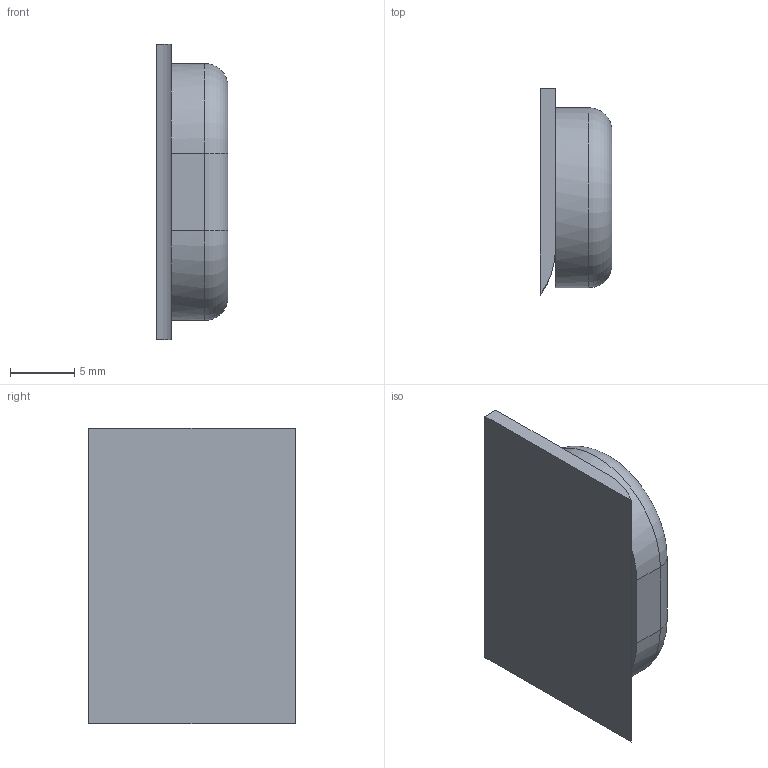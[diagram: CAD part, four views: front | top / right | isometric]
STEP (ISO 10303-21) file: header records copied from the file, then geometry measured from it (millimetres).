
FILE_DESCRIPTION(('Open CASCADE Model'),'2;1');
FILE_NAME('vol_plus_cap_sage','2026-09-08T13:43:18',('Author'),( 'Open CASCADE'),'Open CASCADE STEP processor 7.8','build123d', 'Unknown');
FILE_SCHEMA(('AUTOMOTIVE_DESIGN { 1 0 10303 214 1 1 1 1 }'));
Length unit declared in the file: millimetre
Products named in the file (2): =>[0:1:1:2]; vol_plus_cap_sage
Assembly tree (1 placements, depth 2):
  =>[0:1:1:2]
    vol_plus_cap_sage
Bounding box: 5.6 x 16.1 x 23 mm (x, y, z)
Volume: 1419.7 mm3; surface area: 1102.1 mm2
Topology: 1 solids, 1 shells, 30 faces, 75 edges, 48 vertices
Faces by surface type: plane 22, cylinder 6, torus 2
Entity records: 1899 total; most frequent: CARTESIAN_POINT 350, DIRECTION 290, LINE 190, VECTOR 190, ORIENTED_EDGE 150, PCURVE 150, DEFINITIONAL_REPRESENTATION 150, EDGE_CURVE 75
